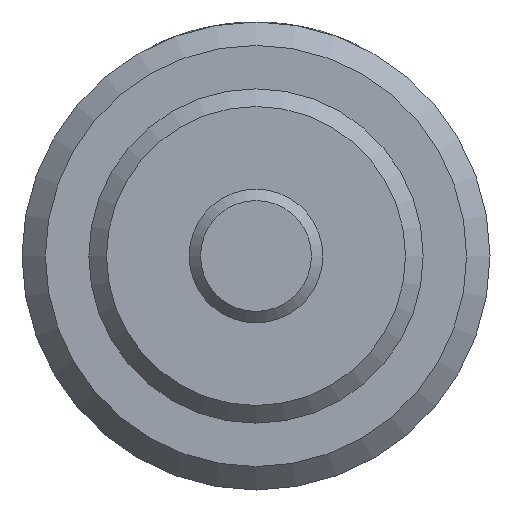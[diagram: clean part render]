
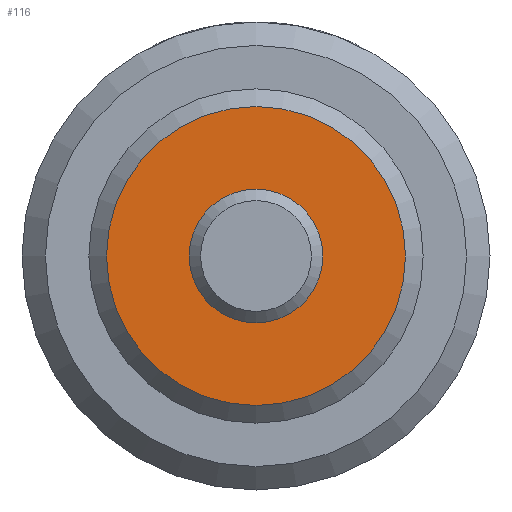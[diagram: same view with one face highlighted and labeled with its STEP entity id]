
A CAD part, left-side view. The second image highlights one B-rep face of the part: STEP entity #116.
In plain terms, the highlighted planar face has unit normal (-1, 0, 0).
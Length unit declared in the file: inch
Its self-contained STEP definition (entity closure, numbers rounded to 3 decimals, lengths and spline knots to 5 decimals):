
#116 = ADVANCED_FACE( '', ( #245, #246 ), #247, .F. );
#245 = FACE_OUTER_BOUND( '', #425, .T. );
#246 = FACE_BOUND( '', #426, .T. );
#247 = PLANE( '', #427 );
#425 = EDGE_LOOP( '', ( #604 ) );
#426 = EDGE_LOOP( '', ( #605 ) );
#427 = AXIS2_PLACEMENT_3D( '', #606, #607, #608 );
#604 = ORIENTED_EDGE( '', *, *, #894, .F. );
#605 = ORIENTED_EDGE( '', *, *, #895, .T. );
#606 = CARTESIAN_POINT( '', ( 0., 0., 0. ) );
#607 = DIRECTION( '', ( 1., 0., 0. ) );
#608 = DIRECTION( '', ( 0., 0., -1. ) );
#894 = EDGE_CURVE( '', #1009, #1009, #1010, .T. );
#895 = EDGE_CURVE( '', #1011, #1011, #1012, .T. );
#1009 = VERTEX_POINT( '', #1175 );
#1010 = CIRCLE( '', #1176, 0.27945 );
#1011 = VERTEX_POINT( '', #1177 );
#1012 = CIRCLE( '', #1178, 0.125 );
#1175 = CARTESIAN_POINT( '', ( 0., 0., -0.27945 ) );
#1176 = AXIS2_PLACEMENT_3D( '', #1481, #1482, #1483 );
#1177 = CARTESIAN_POINT( '', ( 0., 0., -0.125 ) );
#1178 = AXIS2_PLACEMENT_3D( '', #1484, #1485, #1486 );
#1481 = CARTESIAN_POINT( '', ( 0., 0., 0. ) );
#1482 = DIRECTION( '', ( 1., 0., 0. ) );
#1483 = DIRECTION( '', ( 0., 0., -1. ) );
#1484 = CARTESIAN_POINT( '', ( 0., 0., 0. ) );
#1485 = DIRECTION( '', ( 1., 0., 0. ) );
#1486 = DIRECTION( '', ( 0., 0., -1. ) );
